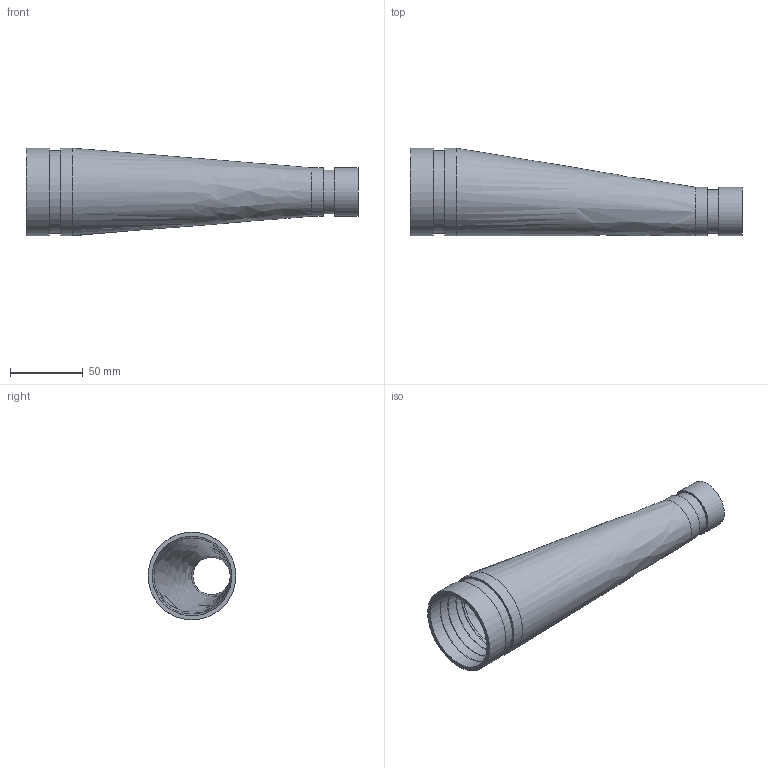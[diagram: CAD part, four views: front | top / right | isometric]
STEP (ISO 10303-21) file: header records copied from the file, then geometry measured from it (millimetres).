
FILE_DESCRIPTION(/* description */ ('VIC REDUCER ECCENTRIC No 451H-SS','CAx-IF Rec.Pracs.---Representation and Presentation of Product Manufacturing Information (PMI)---4.0---2014-10-13'),/* implementation_level */ '2;1');
FILE_NAME(/* name */ 'C:\Users\kkamble\AppData\Roaming\Autodesk\ApplicationPlugins\Back Up\Victaulic_SS-OGS_Reducer Eccentric_Sched 40S_No 451H SS (OGS)\Victaulic_SS-OGS_Reducer Eccentric_Sched 40S_No 451H SS (OGS)_02.0x01.0 (50x25).stp',/* time_stamp */ '2020-08-25T18:05:19+06:00',/* author */ ('CORINNE GRAY'),/* organization */ ('Victaulic'),/* preprocessor_version */ 'ST-DEVELOPER v17.2',/* originating_system */ 'Autodesk Inventor 2019',/* authorisation */ '');
FILE_SCHEMA (('AP242_MANAGED_MODEL_BASED_3D_ENGINEERING_MIM_LF { 1 0 10303 442 1 1 4 }'));
Length unit declared in the file: inch
Products named in the file (1): 451H SS-02.0x01.0
Bounding box: 228.6 x 60.33 x 60.33 mm (x, y, z)
Volume: 87101.7 mm3; surface area: 64961.9 mm2
Topology: 1 solids, 1 shells, 32 faces, 108 edges, 82 vertices
Faces by surface type: cylinder 12, torus 8, plane 6, cone 4, bspline 2
Full cylindrical faces by diameter (mm): 25.654 x1, 27.94 x2, 30.226 x1, 33.401 x2, 52.578 x1, 54.864 x2, 57.15 x1, 60.325 x2
Entity records: 1474 total; most frequent: DIRECTION 284, CARTESIAN_POINT 276, ORIENTED_EDGE 216, AXIS2_PLACEMENT_3D 134, EDGE_CURVE 108, CIRCLE 90, VERTEX_POINT 82, EDGE_LOOP 38
